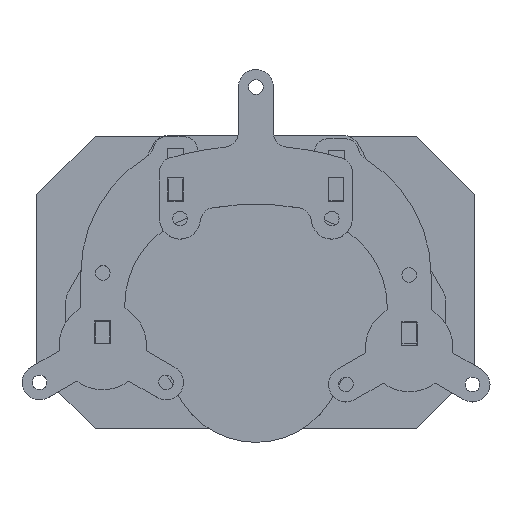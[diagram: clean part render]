
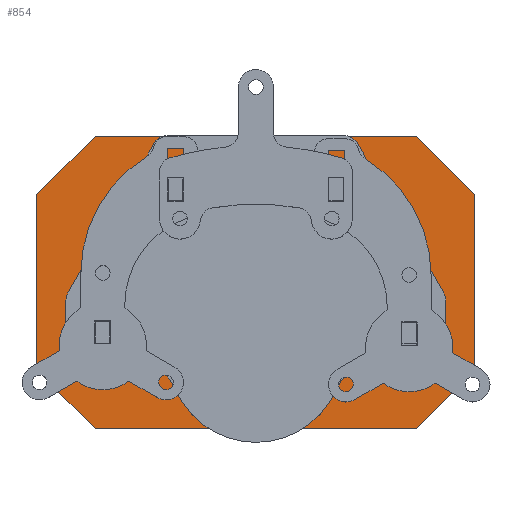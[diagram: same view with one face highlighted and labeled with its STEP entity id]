
A CAD part, top view. The second image highlights one B-rep face of the part: STEP entity #854.
In plain terms, the highlighted planar face has unit normal (0, 0, 1).
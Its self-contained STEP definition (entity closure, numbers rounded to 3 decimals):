
#68=CARTESIAN_POINT('Line Origine',(49.75,-17.5,2.5)) ;
#72=CARTESIAN_POINT('Vertex',(49.75,-13.6,2.5)) ;
#74=CARTESIAN_POINT('Vertex',(49.75,-21.4,2.5)) ;
#108=CARTESIAN_POINT('Line Origine',(52.5,-13.6,2.5)) ;
#112=CARTESIAN_POINT('Vertex',(55.25,-13.6,2.5)) ;
#139=CARTESIAN_POINT('Line Origine',(55.25,-17.5,2.5)) ;
#143=CARTESIAN_POINT('Vertex',(55.25,-21.4,2.5)) ;
#170=CARTESIAN_POINT('Line Origine',(52.5,-21.4,2.5)) ;
#192=CARTESIAN_POINT('Line Origine',(30.,32.048,2.5)) ;
#196=CARTESIAN_POINT('Vertex',(30.,28.148,2.5)) ;
#198=CARTESIAN_POINT('Vertex',(30.,35.948,2.5)) ;
#232=CARTESIAN_POINT('Line Origine',(27.25,28.148,2.5)) ;
#236=CARTESIAN_POINT('Vertex',(24.5,28.148,2.5)) ;
#263=CARTESIAN_POINT('Line Origine',(24.5,32.048,2.5)) ;
#267=CARTESIAN_POINT('Vertex',(24.5,35.948,2.5)) ;
#294=CARTESIAN_POINT('Line Origine',(27.25,35.948,2.5)) ;
#311=CARTESIAN_POINT('Line Origine',(-52.5,-21.4,2.5)) ;
#315=CARTESIAN_POINT('Vertex',(-55.25,-21.4,2.5)) ;
#317=CARTESIAN_POINT('Vertex',(-49.75,-21.4,2.5)) ;
#351=CARTESIAN_POINT('Line Origine',(-55.25,-17.5,2.5)) ;
#355=CARTESIAN_POINT('Vertex',(-55.25,-13.6,2.5)) ;
#377=CARTESIAN_POINT('Line Origine',(-52.5,-13.6,2.5)) ;
#381=CARTESIAN_POINT('Vertex',(-49.75,-13.6,2.5)) ;
#408=CARTESIAN_POINT('Line Origine',(-49.75,-17.5,2.5)) ;
#425=CARTESIAN_POINT('Line Origine',(-27.25,35.948,2.5)) ;
#429=CARTESIAN_POINT('Vertex',(-24.5,35.948,2.5)) ;
#431=CARTESIAN_POINT('Vertex',(-30.,35.948,2.5)) ;
#465=CARTESIAN_POINT('Line Origine',(-24.5,32.048,2.5)) ;
#469=CARTESIAN_POINT('Vertex',(-24.5,28.148,2.5)) ;
#491=CARTESIAN_POINT('Line Origine',(-27.25,28.148,2.5)) ;
#495=CARTESIAN_POINT('Vertex',(-30.,28.148,2.5)) ;
#522=CARTESIAN_POINT('Line Origine',(-30.,32.048,2.5)) ;
#544=CARTESIAN_POINT('Line Origine',(-65.,40.,2.5)) ;
#548=CARTESIAN_POINT('Vertex',(-75.,30.,2.5)) ;
#550=CARTESIAN_POINT('Vertex',(-55.,50.,2.5)) ;
#590=CARTESIAN_POINT('Vertex',(55.,50.,2.5)) ;
#598=CARTESIAN_POINT('Line Origine',(0.,50.,2.5)) ;
#621=CARTESIAN_POINT('Vertex',(75.,30.,2.5)) ;
#629=CARTESIAN_POINT('Line Origine',(65.,40.,2.5)) ;
#653=CARTESIAN_POINT('Line Origine',(75.,0.,2.5)) ;
#657=CARTESIAN_POINT('Vertex',(75.,-30.,2.5)) ;
#677=CARTESIAN_POINT('Line Origine',(65.,-40.,2.5)) ;
#681=CARTESIAN_POINT('Vertex',(55.,-50.,2.5)) ;
#708=CARTESIAN_POINT('Line Origine',(-75.,0.,2.5)) ;
#712=CARTESIAN_POINT('Vertex',(-75.,-30.,2.5)) ;
#745=CARTESIAN_POINT('Vertex',(-55.,-50.,2.5)) ;
#753=CARTESIAN_POINT('Line Origine',(0.,-50.,2.5)) ;
#810=CARTESIAN_POINT('Axis2P3D Location',(0.,0.,2.5)) ;
#815=CARTESIAN_POINT('Line Origine',(-65.,-40.,2.5)) ;
#69=DIRECTION('Vector Direction',(0.,-1.,0.)) ;
#109=DIRECTION('Vector Direction',(-1.,0.,0.)) ;
#140=DIRECTION('Vector Direction',(0.,1.,0.)) ;
#171=DIRECTION('Vector Direction',(1.,0.,0.)) ;
#193=DIRECTION('Vector Direction',(0.,-1.,0.)) ;
#233=DIRECTION('Vector Direction',(-1.,0.,0.)) ;
#264=DIRECTION('Vector Direction',(0.,1.,0.)) ;
#295=DIRECTION('Vector Direction',(1.,0.,0.)) ;
#312=DIRECTION('Vector Direction',(-1.,0.,0.)) ;
#352=DIRECTION('Vector Direction',(0.,1.,0.)) ;
#378=DIRECTION('Vector Direction',(1.,0.,0.)) ;
#409=DIRECTION('Vector Direction',(0.,-1.,0.)) ;
#426=DIRECTION('Vector Direction',(-1.,0.,0.)) ;
#466=DIRECTION('Vector Direction',(0.,1.,0.)) ;
#492=DIRECTION('Vector Direction',(1.,0.,0.)) ;
#523=DIRECTION('Vector Direction',(0.,-1.,0.)) ;
#545=DIRECTION('Vector Direction',(0.707,0.707,0.)) ;
#599=DIRECTION('Vector Direction',(1.,0.,0.)) ;
#630=DIRECTION('Vector Direction',(-0.707,0.707,0.)) ;
#654=DIRECTION('Vector Direction',(0.,1.,0.)) ;
#678=DIRECTION('Vector Direction',(-0.707,-0.707,0.)) ;
#709=DIRECTION('Vector Direction',(0.,-1.,0.)) ;
#754=DIRECTION('Vector Direction',(-1.,0.,0.)) ;
#811=DIRECTION('Axis2P3D Direction',(0.,0.,1.)) ;
#812=DIRECTION('Axis2P3D XDirection',(1.,0.,0.)) ;
#816=DIRECTION('Vector Direction',(0.707,-0.707,0.)) ;
#813=AXIS2_PLACEMENT_3D('Plane Axis2P3D',#810,#811,#812) ;
#821=ORIENTED_EDGE('',*,*,#757,.T.) ;
#822=ORIENTED_EDGE('',*,*,#683,.F.) ;
#823=ORIENTED_EDGE('',*,*,#659,.T.) ;
#824=ORIENTED_EDGE('',*,*,#633,.F.) ;
#825=ORIENTED_EDGE('',*,*,#602,.T.) ;
#826=ORIENTED_EDGE('',*,*,#552,.F.) ;
#827=ORIENTED_EDGE('',*,*,#714,.T.) ;
#828=ORIENTED_EDGE('',*,*,#819,.F.) ;
#831=ORIENTED_EDGE('',*,*,#76,.F.) ;
#832=ORIENTED_EDGE('',*,*,#114,.F.) ;
#833=ORIENTED_EDGE('',*,*,#145,.F.) ;
#834=ORIENTED_EDGE('',*,*,#174,.F.) ;
#837=ORIENTED_EDGE('',*,*,#200,.F.) ;
#838=ORIENTED_EDGE('',*,*,#238,.F.) ;
#839=ORIENTED_EDGE('',*,*,#269,.F.) ;
#840=ORIENTED_EDGE('',*,*,#298,.F.) ;
#843=ORIENTED_EDGE('',*,*,#319,.F.) ;
#844=ORIENTED_EDGE('',*,*,#357,.F.) ;
#845=ORIENTED_EDGE('',*,*,#383,.F.) ;
#846=ORIENTED_EDGE('',*,*,#412,.F.) ;
#849=ORIENTED_EDGE('',*,*,#433,.F.) ;
#850=ORIENTED_EDGE('',*,*,#471,.F.) ;
#851=ORIENTED_EDGE('',*,*,#497,.F.) ;
#852=ORIENTED_EDGE('',*,*,#526,.F.) ;
#835=FACE_BOUND('',#830,.T.) ;
#841=FACE_BOUND('',#836,.T.) ;
#847=FACE_BOUND('',#842,.T.) ;
#853=FACE_BOUND('',#848,.T.) ;
#70=VECTOR('Line Direction',#69,1.) ;
#110=VECTOR('Line Direction',#109,1.) ;
#141=VECTOR('Line Direction',#140,1.) ;
#172=VECTOR('Line Direction',#171,1.) ;
#194=VECTOR('Line Direction',#193,1.) ;
#234=VECTOR('Line Direction',#233,1.) ;
#265=VECTOR('Line Direction',#264,1.) ;
#296=VECTOR('Line Direction',#295,1.) ;
#313=VECTOR('Line Direction',#312,1.) ;
#353=VECTOR('Line Direction',#352,1.) ;
#379=VECTOR('Line Direction',#378,1.) ;
#410=VECTOR('Line Direction',#409,1.) ;
#427=VECTOR('Line Direction',#426,1.) ;
#467=VECTOR('Line Direction',#466,1.) ;
#493=VECTOR('Line Direction',#492,1.) ;
#524=VECTOR('Line Direction',#523,1.) ;
#546=VECTOR('Line Direction',#545,1.) ;
#600=VECTOR('Line Direction',#599,1.) ;
#631=VECTOR('Line Direction',#630,1.) ;
#655=VECTOR('Line Direction',#654,1.) ;
#679=VECTOR('Line Direction',#678,1.) ;
#710=VECTOR('Line Direction',#709,1.) ;
#755=VECTOR('Line Direction',#754,1.) ;
#817=VECTOR('Line Direction',#816,1.) ;
#854=ADVANCED_FACE('Corps principal',(#829,#835,#841,#847,#853),#814,.T.) ;
#76=EDGE_CURVE('',#73,#75,#71,.T.) ;
#114=EDGE_CURVE('',#113,#73,#111,.T.) ;
#145=EDGE_CURVE('',#144,#113,#142,.T.) ;
#174=EDGE_CURVE('',#75,#144,#173,.T.) ;
#200=EDGE_CURVE('',#197,#199,#195,.F.) ;
#238=EDGE_CURVE('',#237,#197,#235,.F.) ;
#269=EDGE_CURVE('',#268,#237,#266,.F.) ;
#298=EDGE_CURVE('',#199,#268,#297,.F.) ;
#319=EDGE_CURVE('',#316,#318,#314,.F.) ;
#357=EDGE_CURVE('',#356,#316,#354,.F.) ;
#383=EDGE_CURVE('',#382,#356,#380,.F.) ;
#412=EDGE_CURVE('',#318,#382,#411,.F.) ;
#433=EDGE_CURVE('',#430,#432,#428,.T.) ;
#471=EDGE_CURVE('',#470,#430,#468,.T.) ;
#497=EDGE_CURVE('',#496,#470,#494,.T.) ;
#526=EDGE_CURVE('',#432,#496,#525,.T.) ;
#552=EDGE_CURVE('',#549,#551,#547,.T.) ;
#602=EDGE_CURVE('',#591,#551,#601,.F.) ;
#633=EDGE_CURVE('',#591,#622,#632,.F.) ;
#659=EDGE_CURVE('',#658,#622,#656,.T.) ;
#683=EDGE_CURVE('',#658,#682,#680,.T.) ;
#714=EDGE_CURVE('',#549,#713,#711,.T.) ;
#757=EDGE_CURVE('',#746,#682,#756,.F.) ;
#819=EDGE_CURVE('',#746,#713,#818,.F.) ;
#820=EDGE_LOOP('',(#821,#822,#823,#824,#825,#826,#827,#828)) ;
#830=EDGE_LOOP('',(#831,#832,#833,#834)) ;
#836=EDGE_LOOP('',(#837,#838,#839,#840)) ;
#842=EDGE_LOOP('',(#843,#844,#845,#846)) ;
#848=EDGE_LOOP('',(#849,#850,#851,#852)) ;
#829=FACE_OUTER_BOUND('',#820,.T.) ;
#71=LINE('Line',#68,#70) ;
#111=LINE('Line',#108,#110) ;
#142=LINE('Line',#139,#141) ;
#173=LINE('Line',#170,#172) ;
#195=LINE('Line',#192,#194) ;
#235=LINE('Line',#232,#234) ;
#266=LINE('Line',#263,#265) ;
#297=LINE('Line',#294,#296) ;
#314=LINE('Line',#311,#313) ;
#354=LINE('Line',#351,#353) ;
#380=LINE('Line',#377,#379) ;
#411=LINE('Line',#408,#410) ;
#428=LINE('Line',#425,#427) ;
#468=LINE('Line',#465,#467) ;
#494=LINE('Line',#491,#493) ;
#525=LINE('Line',#522,#524) ;
#547=LINE('Line',#544,#546) ;
#601=LINE('Line',#598,#600) ;
#632=LINE('Line',#629,#631) ;
#656=LINE('Line',#653,#655) ;
#680=LINE('Line',#677,#679) ;
#711=LINE('Line',#708,#710) ;
#756=LINE('Line',#753,#755) ;
#818=LINE('Line',#815,#817) ;
#814=PLANE('',#813) ;
#73=VERTEX_POINT('',#72) ;
#75=VERTEX_POINT('',#74) ;
#113=VERTEX_POINT('',#112) ;
#144=VERTEX_POINT('',#143) ;
#197=VERTEX_POINT('',#196) ;
#199=VERTEX_POINT('',#198) ;
#237=VERTEX_POINT('',#236) ;
#268=VERTEX_POINT('',#267) ;
#316=VERTEX_POINT('',#315) ;
#318=VERTEX_POINT('',#317) ;
#356=VERTEX_POINT('',#355) ;
#382=VERTEX_POINT('',#381) ;
#430=VERTEX_POINT('',#429) ;
#432=VERTEX_POINT('',#431) ;
#470=VERTEX_POINT('',#469) ;
#496=VERTEX_POINT('',#495) ;
#549=VERTEX_POINT('',#548) ;
#551=VERTEX_POINT('',#550) ;
#591=VERTEX_POINT('',#590) ;
#622=VERTEX_POINT('',#621) ;
#658=VERTEX_POINT('',#657) ;
#682=VERTEX_POINT('',#681) ;
#713=VERTEX_POINT('',#712) ;
#746=VERTEX_POINT('',#745) ;
